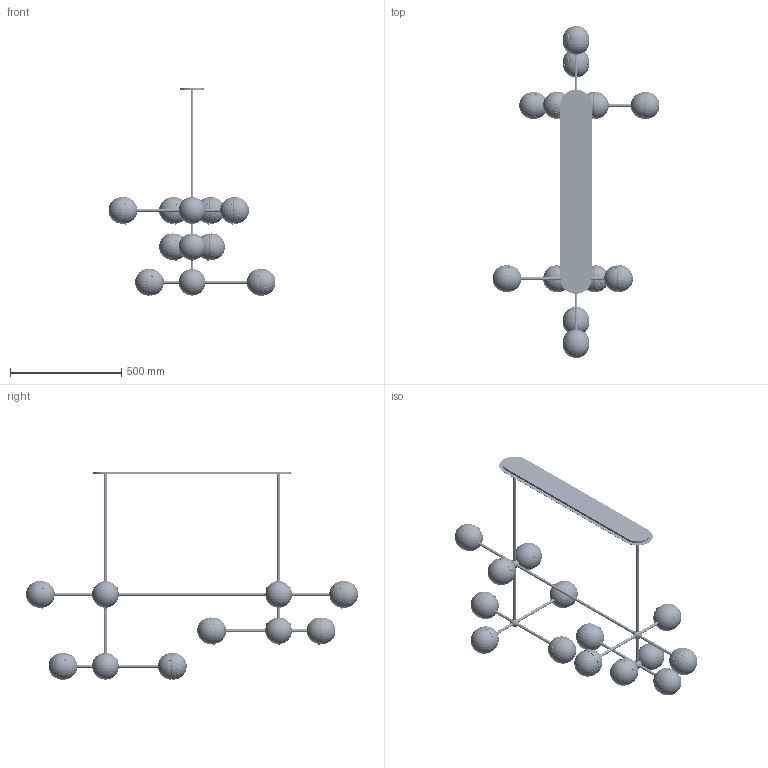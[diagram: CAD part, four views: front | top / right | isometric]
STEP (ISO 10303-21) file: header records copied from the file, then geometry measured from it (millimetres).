
FILE_DESCRIPTION(/* description */ (''),/* implementation_level */ '2;1');
FILE_NAME(/* name */ 'T:\B269 Molecule Flat 59``\Pliki bryłowe handlowe\B269 Molecule Linear 3D files_na stronę\B269 Molecule Linear.stp',/* time_stamp */ '2022-02-02T15:33:14+01:00',/* author */ ('Mariusz Awariusz'),/* organization */ (''),/* preprocessor_version */ 'ST-DEVELOPER v18.1',/* originating_system */ 'Autodesk Inventor 2022',/* authorisation */ '');
FILE_SCHEMA (('AUTOMOTIVE_DESIGN { 1 0 10303 214 3 1 1 }'));
Products named in the file (1): B269 Molecule Flat 59`` CE V4_na potrzeby plików 3D_2_jako część_
korpusy bryłowe
Bounding box: 751.86 x 1494.99 x 940.69 mm (x, y, z)
Volume: 2804331.6 mm3; surface area: 2198435.7 mm2
Topology: 2617 solids, 2617 shells, 21303 faces, 48029 edges, 31924 vertices
Faces by surface type: plane 17852, cylinder 2779, bspline 336, torus 140, sphere 106, cone 90
Full cylindrical faces by diameter (mm): 3.242 x42, 4 x42, 6 x42, 10 x14, 11.6 x14, 11.917 x2, 13 x31, 13.5 x20, 20.6 x4, 22 x4, 23.1 x4, 23.5 x4, 109 x14, 112 x14
Entity records: 599692 total; most frequent: CARTESIAN_POINT 118995, ORIENTED_EDGE 95946, DIRECTION 95333, EDGE_CURVE 47973, LINE 40689, VECTOR 40689, VERTEX_POINT 31924, AXIS2_PLACEMENT_3D 27322
